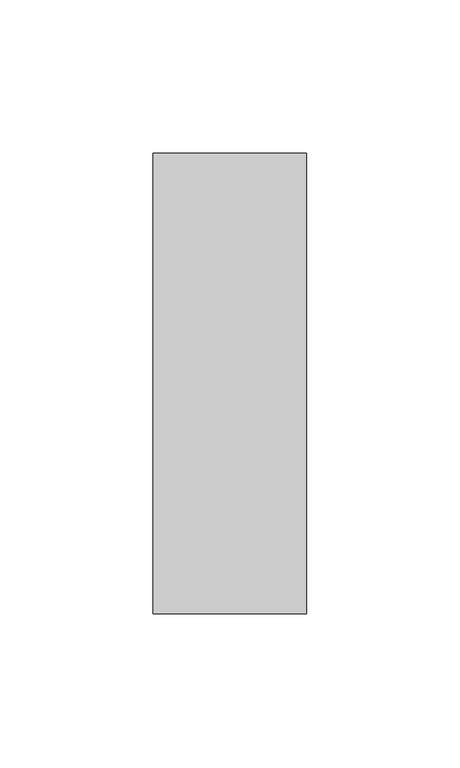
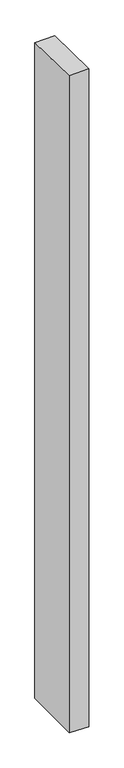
"""IFC4 building model written with IfcOpenShell, lengths in millimetres: member geometry, Прямоугольный импост : 50 x 150 мм."""

from ifc_helpers import new_model, si_unit, origin, place, context, project, spatial, faceted_brep, source, transform, mapped, element, save


def member_68350235(model_context):
    return source(origin(), model_context, "Body", "Brep", [
        faceted_brep([(-25.0, 75.0, -1.8435309), (25.0, 75.0, -0.6413843), (25.0, 75.0, -1754.3315827), (-25.0, 75.0, -1753.3366838), (-25.0, -75.0, 0.6413843), (-25.0, -75.0, -1754.5479153), (25.0, -75.0, 1.8435309), (25.0, -75.0, -1755.5428142)], [[[0, 1, 2, 3]], [[4, 0, 3, 5]], [[6, 4, 5, 7]], [[1, 6, 7, 2]], [[1, 0, 4, 6]], [[2, 7, 5, 3]]]),
    ])


if __name__ == "__main__":
    model = new_model("IFC4")
    model_context = context("Model", 3, world=origin())
    ifc_project = project(units=[si_unit("LENGTHUNIT", "METRE", prefix="MILLI")], contexts=[model_context])
    site = spatial("IfcSite", under=ifc_project)
    building = spatial("IfcBuilding", under=site)
    placement = place(None, origin())
    member_shape = member_68350235(model_context)
    element("IfcMember", 1, ObjectType="Прямоугольный импост : 50 x 150 мм", at=placement, inside=building, context=model_context, shape_type="MappedRepresentation", body=[
        mapped(member_shape, transform((0.0, 0.0, 0.0), x_axis=(1.0, 0.0, 0.0), y_axis=(0.0, 1.0, 0.0), z_axis=(0.0, 0.0, 1.0))),
    ])
    save(model, "model.ifc")
